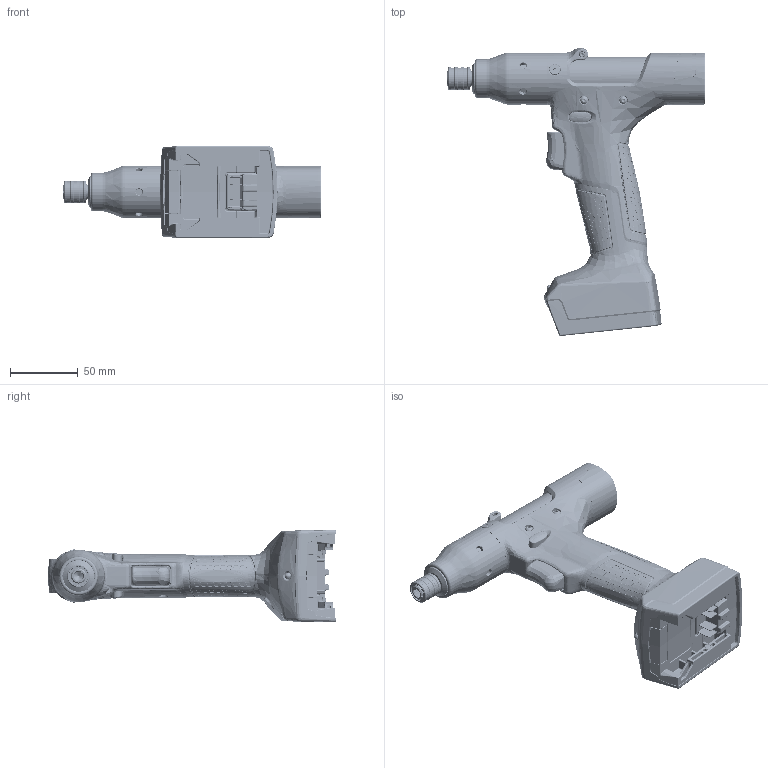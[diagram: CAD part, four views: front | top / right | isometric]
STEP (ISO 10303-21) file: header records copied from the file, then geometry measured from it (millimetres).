
FILE_DESCRIPTION((''),'2;1');
FILE_NAME('CTBPW05Q_ASM','2020-03-31T',('A1X81'),(''),'CREO PARAMETRIC BY PTC INC, 2016050','CREO PARAMETRIC BY PTC INC, 2016050','');
FILE_SCHEMA(('CONFIG_CONTROL_DESIGN'));
Length unit declared in the file: millimetre
Products named in the file (58): T50-1000491; T50-1000492; M30X226S; T50-1000492_ASM; T50-1000559; T50-1000560; T50-1000583; T50-3000227_ASM; T50-1000829; 931791; T50-3000458_ASM; T50-1000349-1; T50-1000349-2; T50-1000349-3; T50-1000349-4; T50-1000349-5; T50-1000349_ASM; T55-1000071_ASM; T50-1000257; 207914PT; T50-3000139_ASM; T50-1000604; WP154A4; T55-1000060_ASM; T50-1000665; T50-1000665-B; T50-1000665_ASM; T50-3000358_ASM; T50-1000580; T50-1000568; T50-1000569; AKTSC62K; T55-3000014_ASM; T50-1000567; T50-1000566-1; T50-1000566-2_PISTOL; T50-1000566-3; T50-1000566_PISTOL_ASM; T50-1000327-5; T50-3000228_ASM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
Assembly tree (80 placements, depth 5):
  CTBPW05Q_ASM
    T50-3000370_ASM
      T50-1000491
      T50-1000492_ASM
        T50-1000492
        M30X226S  x7
      T50-3000227_ASM
        T50-1000559
        T50-1000560
        T50-1000583
      T50-3000458_ASM
        T50-1000829
        931791  x2
      T55-1000071_ASM
        T50-1000349_ASM
          T50-1000349-1
          T50-1000349-2
          T50-1000349-3
          T50-1000349-4
          T50-1000349-5
      T50-3000139_ASM  x2
        T50-1000257
        207914PT
      T50-1000604
      T55-1000060_ASM
        WP154A4
      T50-3000358_ASM
        T50-1000665_ASM
          T50-1000665
          T50-1000665-B
      T50-3000228_ASM
        T50-1000580
        T50-1000568
        T50-1000569
        T55-3000014_ASM
          AKTSC62K  x3
        T50-1000567  x2
        T50-1000566_PISTOL_ASM
          T50-1000566-1
          T50-1000566-2_PISTOL
          T50-1000566-3
        T50-1000327-5  x2
      T50-1000327-4  x6
      T50-1000327-3  x5
      T50-1000721  x2
      T50-1001028  x2
    T50-3000214_ASM
      T50-1000518
      542092_ASM
        542092
      541914
      833688
      536592
      540800
      503009
      T50-1000562
    T50-1000722_INSTALLED
    T50-1000832
Bounding box: 191.4 x 213.14 x 68.68 mm (x, y, z)
Volume: 214526.6 mm3; surface area: 199368.8 mm2
Topology: 67 solids, 67 shells, 11277 faces, 26219 edges, 15275 vertices
Faces by surface type: bspline 5531, cylinder 2343, plane 1583, cone 642, torus 581, sphere 481, extrusion 116
Entity records: 594489 total; most frequent: CARTESIAN_POINT 396743, ORIENTED_EDGE 47696, DIRECTION 30957, EDGE_CURVE 23848, VERTEX_POINT 13909, AXIS2_PLACEMENT_3D 12372, EDGE_LOOP 10595, B_SPLINE_CURVE_WITH_KNOTS 10558
